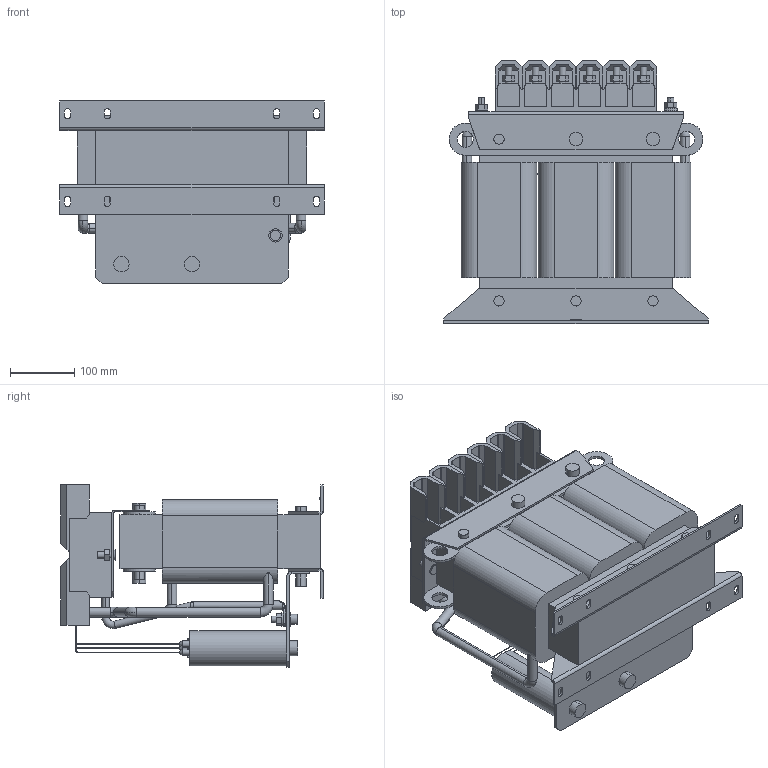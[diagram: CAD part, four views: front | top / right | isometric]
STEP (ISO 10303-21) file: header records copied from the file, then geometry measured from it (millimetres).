
FILE_DESCRIPTION (( 'STEP AP214' ), '1' );
FILE_NAME ('00Z1GX4-0023.STEP', '2022-11-16T11:10:18', ( '' ), ( '' ), 'SwSTEP 2.0', 'SolidWorks 2022', '' );
FILE_SCHEMA (( 'AUTOMOTIVE_DESIGN' ));
Length unit declared in the file: millimetre
Products named in the file (1): 00Z1GX4-0023
Bounding box: 412 x 409.5 x 285.05 mm (x, y, z)
Volume: 15899782.7 mm3; surface area: 1144388.5 mm2
Topology: 1 solids, 1 shells, 972 faces, 2565 edges, 1658 vertices
Faces by surface type: plane 535, cylinder 327, torus 70, bspline 28, cone 12
Entity records: 36077 total; most frequent: CARTESIAN_POINT 11492, ORIENTED_EDGE 5130, DIRECTION 5018, EDGE_CURVE 2565, AXIS2_PLACEMENT_3D 1719, VERTEX_POINT 1658, LINE 1580, VECTOR 1580
